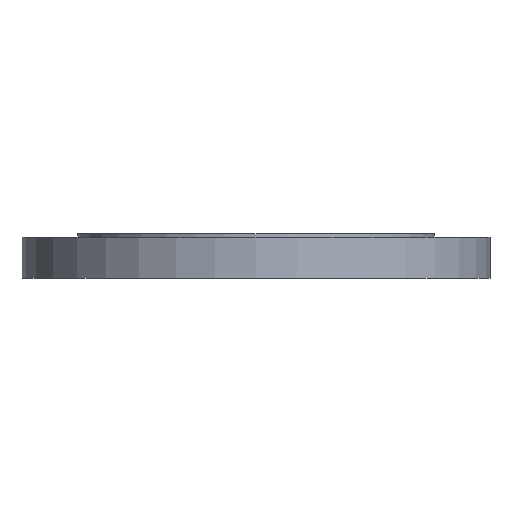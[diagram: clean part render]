
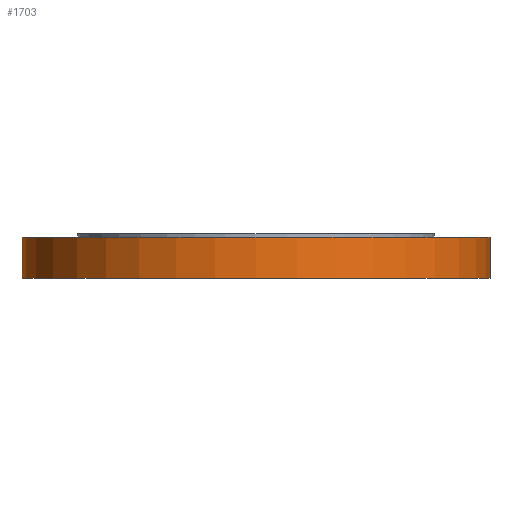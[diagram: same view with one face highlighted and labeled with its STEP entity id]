
A CAD part, front view. The second image highlights one B-rep face of the part: STEP entity #1703.
In plain terms, the highlighted cylindrical face has radius 377.5 mm (diameter 755 mm), a partial arc.
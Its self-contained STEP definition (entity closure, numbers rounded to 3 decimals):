
#61 = AXIS2_PLACEMENT_3D ( 'NONE', #427, #1112, #1620 ) ;
#64 = CARTESIAN_POINT ( 'NONE',  ( 377.5, 0., -5.5 ) ) ;
#95 = CARTESIAN_POINT ( 'NONE',  ( 377.5, 0., -72. ) ) ;
#104 = CARTESIAN_POINT ( 'NONE',  ( -377.5, 0., -150. ) ) ;
#107 = CIRCLE ( 'NONE', #61, 377.5 ) ;
#143 = CARTESIAN_POINT ( 'NONE',  ( -377.5, 0., -72. ) ) ;
#259 = DIRECTION ( 'NONE',  ( -1., 0., 0. ) ) ;
#264 = DIRECTION ( 'NONE',  ( 0., 0., -1. ) ) ;
#266 = CARTESIAN_POINT ( 'NONE',  ( 0., 0., -5.5 ) ) ;
#329 = EDGE_CURVE ( 'NONE', #670, #891, #895, .T. ) ;
#402 = CARTESIAN_POINT ( 'NONE',  ( 0., 0., -150. ) ) ;
#427 = CARTESIAN_POINT ( 'NONE',  ( 0., 0., -72. ) ) ;
#438 = EDGE_LOOP ( 'NONE', ( #1304, #1305, #1307, #1308 ) ) ;
#569 = VERTEX_POINT ( 'NONE', #143 ) ;
#627 = VERTEX_POINT ( 'NONE', #95 ) ;
#670 = VERTEX_POINT ( 'NONE', #64 ) ;
#705 = VECTOR ( 'NONE', #778, 1000. ) ;
#778 = DIRECTION ( 'NONE',  ( 0., 0., 1. ) ) ;
#831 = EDGE_CURVE ( 'NONE', #569, #891, #1590, .T. ) ;
#891 = VERTEX_POINT ( 'NONE', #1090 ) ;
#895 = CIRCLE ( 'NONE', #900, 377.5 ) ;
#900 = AXIS2_PLACEMENT_3D ( 'NONE', #266, #264, #259 ) ;
#919 = DIRECTION ( 'NONE',  ( 0., 0., 1. ) ) ;
#1090 = CARTESIAN_POINT ( 'NONE',  ( -377.5, 0., -5.5 ) ) ;
#1107 = DIRECTION ( 'NONE',  ( 0., 0., 1. ) ) ;
#1112 = DIRECTION ( 'NONE',  ( 0., 0., -1. ) ) ;
#1212 = FACE_OUTER_BOUND ( 'NONE', #438, .T. ) ;
#1304 = ORIENTED_EDGE ( 'NONE', *, *, #831, .F. ) ;
#1305 = ORIENTED_EDGE ( 'NONE', *, *, #1479, .F. ) ;
#1307 = ORIENTED_EDGE ( 'NONE', *, *, #1655, .T. ) ;
#1308 = ORIENTED_EDGE ( 'NONE', *, *, #329, .T. ) ;
#1429 = VECTOR ( 'NONE', #919, 1000. ) ;
#1467 = LINE ( 'NONE', #1815, #705 ) ;
#1479 = EDGE_CURVE ( 'NONE', #627, #569, #107, .T. ) ;
#1590 = LINE ( 'NONE', #104, #1429 ) ;
#1615 = DIRECTION ( 'NONE',  ( 1., 0., 0. ) ) ;
#1620 = DIRECTION ( 'NONE',  ( -1., 0., 0. ) ) ;
#1655 = EDGE_CURVE ( 'NONE', #627, #670, #1467, .T. ) ;
#1681 = CYLINDRICAL_SURFACE ( 'NONE', #1824, 377.5 ) ;
#1703 = ADVANCED_FACE ( 'NONE', ( #1212 ), #1681, .T. ) ;
#1815 = CARTESIAN_POINT ( 'NONE',  ( 377.5, 0., -150. ) ) ;
#1824 = AXIS2_PLACEMENT_3D ( 'NONE', #402, #1107, #1615 ) ;
